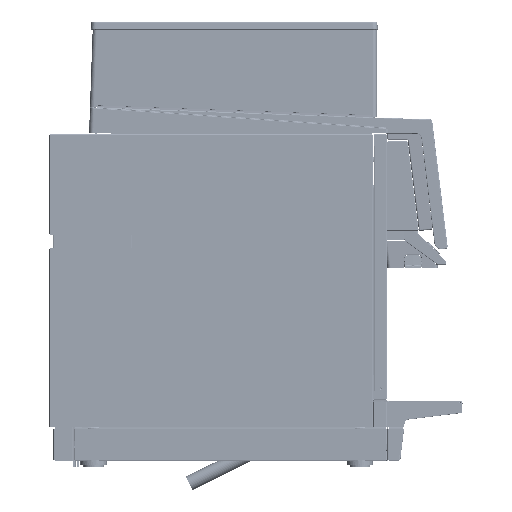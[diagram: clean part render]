
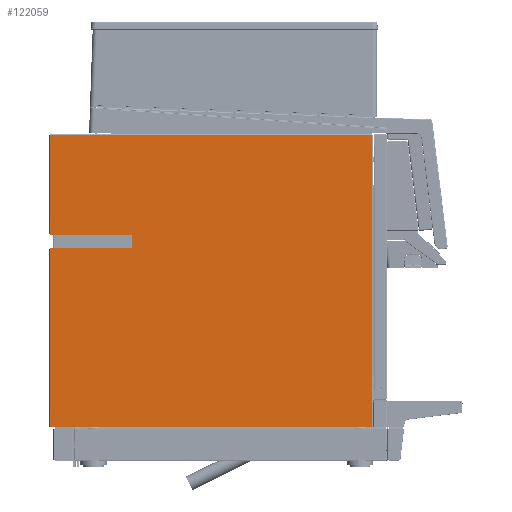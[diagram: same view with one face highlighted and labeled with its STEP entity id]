
A CAD part, left-side view. The second image highlights one B-rep face of the part: STEP entity #122059.
In plain terms, the highlighted planar face has unit normal (-1, 0, 0).
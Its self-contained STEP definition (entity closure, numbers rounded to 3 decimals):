
#11619=CIRCLE('',#136258,0.5);
#11620=CIRCLE('',#136259,0.5);
#31206=ORIENTED_EDGE('',*,*,#54665,.F.);
#31207=ORIENTED_EDGE('',*,*,#54625,.F.);
#31208=ORIENTED_EDGE('',*,*,#54627,.F.);
#31209=ORIENTED_EDGE('',*,*,#54645,.F.);
#31210=ORIENTED_EDGE('',*,*,#54643,.F.);
#31211=ORIENTED_EDGE('',*,*,#54712,.T.);
#31212=ORIENTED_EDGE('',*,*,#54713,.T.);
#31213=ORIENTED_EDGE('',*,*,#54714,.F.);
#31214=ORIENTED_EDGE('',*,*,#54715,.T.);
#31215=ORIENTED_EDGE('',*,*,#54716,.F.);
#31216=ORIENTED_EDGE('',*,*,#54717,.T.);
#31217=ORIENTED_EDGE('',*,*,#54718,.T.);
#54625=EDGE_CURVE('',#106503,#106499,#69635,.T.);
#54627=EDGE_CURVE('',#106505,#106503,#69636,.T.);
#54643=EDGE_CURVE('',#106519,#106517,#69643,.T.);
#54645=EDGE_CURVE('',#106517,#106505,#69644,.T.);
#54665=EDGE_CURVE('',#106499,#106535,#69653,.T.);
#54712=EDGE_CURVE('',#106519,#106577,#69690,.T.);
#54713=EDGE_CURVE('',#106577,#106578,#69691,.T.);
#54714=EDGE_CURVE('',#106579,#106578,#11619,.T.);
#54715=EDGE_CURVE('',#106579,#106580,#69692,.T.);
#54716=EDGE_CURVE('',#106581,#106580,#11620,.T.);
#54717=EDGE_CURVE('',#106581,#106582,#69693,.T.);
#54718=EDGE_CURVE('',#106582,#106535,#69694,.T.);
#69635=LINE('',#226624,#81130);
#69636=LINE('',#226629,#81131);
#69643=LINE('',#226662,#81138);
#69644=LINE('',#226666,#81139);
#69653=LINE('',#226705,#81148);
#69690=LINE('',#226801,#81185);
#69691=LINE('',#226803,#81186);
#69692=LINE('',#226807,#81187);
#69693=LINE('',#226811,#81188);
#69694=LINE('',#226813,#81189);
#81130=VECTOR('',#161448,1000.);
#81131=VECTOR('',#161453,1000.);
#81138=VECTOR('',#161484,1000.);
#81139=VECTOR('',#161489,1000.);
#81148=VECTOR('',#161528,1000.);
#81185=VECTOR('',#161601,1000.);
#81186=VECTOR('',#161602,1000.);
#81187=VECTOR('',#161605,1000.);
#81188=VECTOR('',#161608,1000.);
#81189=VECTOR('',#161609,1000.);
#89480=EDGE_LOOP('',(#31206,#31207,#31208,#31209,#31210,#31211,#31212,#31213,
#31214,#31215,#31216,#31217));
#91686=PLANE('',#136257);
#106499=VERTEX_POINT('',#226616);
#106503=VERTEX_POINT('',#226623);
#106505=VERTEX_POINT('',#226628);
#106517=VERTEX_POINT('',#226657);
#106519=VERTEX_POINT('',#226661);
#106535=VERTEX_POINT('',#226702);
#106577=VERTEX_POINT('',#226802);
#106578=VERTEX_POINT('',#226804);
#106579=VERTEX_POINT('',#226806);
#106580=VERTEX_POINT('',#226808);
#106581=VERTEX_POINT('',#226810);
#106582=VERTEX_POINT('',#226812);
#117667=FACE_BOUND('',#89480,.T.);
#122059=ADVANCED_FACE('',(#117667),#91686,.T.);
#136257=AXIS2_PLACEMENT_3D('',#226800,#161599,#161600);
#136258=AXIS2_PLACEMENT_3D('',#226805,#161603,#161604);
#136259=AXIS2_PLACEMENT_3D('',#226809,#161606,#161607);
#161448=DIRECTION('',(0.,1.,0.));
#161453=DIRECTION('',(0.,0.,-1.));
#161484=DIRECTION('',(0.,0.,1.));
#161489=DIRECTION('',(0.,-1.,0.));
#161528=DIRECTION('',(0.,0.,1.));
#161599=DIRECTION('',(-1.,0.,0.));
#161600=DIRECTION('',(0.,0.,1.));
#161601=DIRECTION('',(0.,0.,-1.));
#161602=DIRECTION('',(0.,-1.,0.));
#161603=DIRECTION('',(-1.,0.,0.));
#161604=DIRECTION('',(0.,-0.707,0.707));
#161605=DIRECTION('',(0.,0.,-1.));
#161606=DIRECTION('',(-1.,0.,0.));
#161607=DIRECTION('',(0.,-0.707,-0.707));
#161608=DIRECTION('',(0.,1.,0.));
#161609=DIRECTION('',(0.,0.,-1.));
#226616=CARTESIAN_POINT('',(-439.9,582.264,-12.986));
#226623=CARTESIAN_POINT('',(-439.9,114.664,-12.986));
#226624=CARTESIAN_POINT('',(-439.9,114.664,-12.986));
#226628=CARTESIAN_POINT('',(-439.9,114.664,410.614));
#226629=CARTESIAN_POINT('',(-439.9,114.664,410.614));
#226657=CARTESIAN_POINT('',(-439.9,582.264,410.614));
#226661=CARTESIAN_POINT('',(-439.9,582.264,267.014));
#226662=CARTESIAN_POINT('',(-439.9,582.264,267.014));
#226666=CARTESIAN_POINT('',(-439.9,582.264,410.614));
#226702=CARTESIAN_POINT('',(-439.9,582.264,244.614));
#226705=CARTESIAN_POINT('',(-439.9,582.264,-12.986));
#226800=CARTESIAN_POINT('',(-439.9,113.464,-14.186));
#226801=CARTESIAN_POINT('',(-439.9,582.264,267.014));
#226802=CARTESIAN_POINT('',(-439.9,582.264,265.814));
#226803=CARTESIAN_POINT('',(-439.9,582.264,265.814));
#226804=CARTESIAN_POINT('',(-439.9,463.964,265.814));
#226805=CARTESIAN_POINT('',(-439.9,463.964,265.314));
#226806=CARTESIAN_POINT('',(-439.9,463.464,265.314));
#226807=CARTESIAN_POINT('',(-439.9,463.464,265.314));
#226808=CARTESIAN_POINT('',(-439.9,463.464,246.314));
#226809=CARTESIAN_POINT('',(-439.9,463.964,246.314));
#226810=CARTESIAN_POINT('',(-439.9,463.964,245.814));
#226811=CARTESIAN_POINT('',(-439.9,463.964,245.814));
#226812=CARTESIAN_POINT('',(-439.9,582.264,245.814));
#226813=CARTESIAN_POINT('',(-439.9,582.264,245.814));
